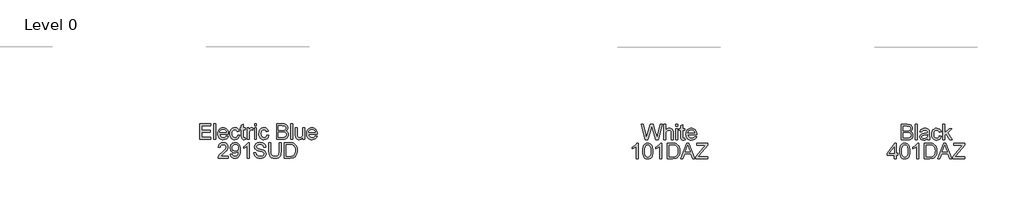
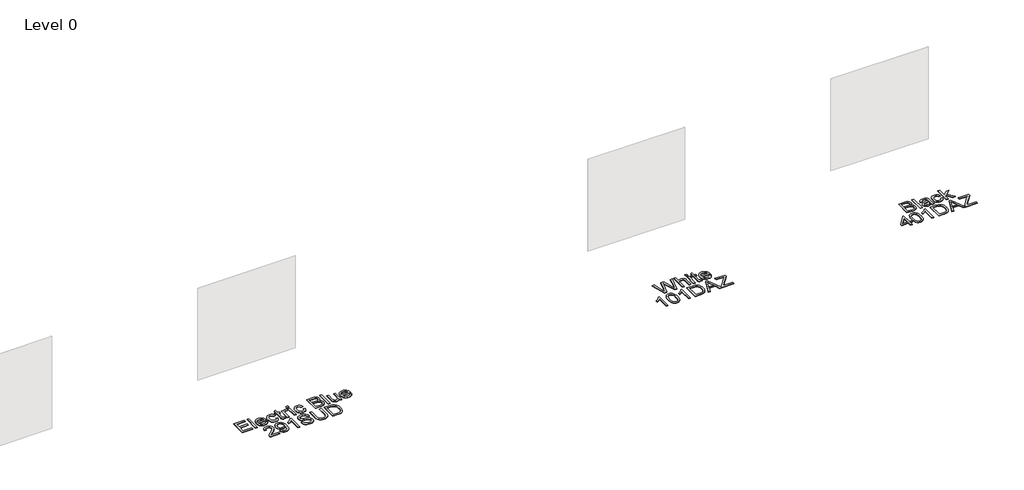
# One storey, part 18 of 37: 3 proxies.
"""IFC4 building model written with IfcOpenShell, lengths in millimetres."""

from ifc_helpers import new_model, si_unit, origin, origin_with_axes, place, context, project, spatial, polyline, outline, extrude, element, save

model = new_model("IFC4")

# Units and contexts
model_context = context("Model", 3, world=origin())
ifc_project = project(units=[si_unit("LENGTHUNIT", "METRE", prefix="MILLI")], contexts=[model_context])

# Site, building, storey
site = spatial("IfcSite", under=ifc_project)
building = spatial("IfcBuilding", under=site)
storey = spatial("IfcBuildingStorey", under=building, Name="Level 0", Elevation=0.0)

# Proxies
placement = place(None, origin())
element("IfcBuildingElementProxy", 1, Name="300mm Arial", ObjectType="300mm Arial", at=placement, inside=storey, context=model_context, shape_type="SweptSolid", body=[
    extrude(outline(polyline([(9416.8540097, -36932.860494), (9416.8540097, -36631.4915635), (9633.4629285, -36631.4915635), (9633.4629285, -36669.1626798), (9454.525126, -36669.1626798), (9454.525126, -36758.6315811), (9624.0451494, -36758.6315811), (9624.0451494, -36796.3026974), (9454.525126, -36796.3026974), (9454.525126, -36895.1893777), (9638.171818, -36895.1893777), (9638.171818, -36932.860494), (9416.8540097, -36932.860494)])), origin_with_axes(), (0.0, 0.0, 1.0), 10.0),
    extrude(outline(polyline([(9689.969603, -36932.860494), (9689.969603, -36631.4915635), (9727.6407193, -36631.4915635), (9727.6407193, -36932.860494), (9689.969603, -36932.860494)])), origin_with_axes(), (0.0, 0.0, 1.0), 10.0),
    extrude(outline(polyline([(9939.0992901, -36866.9360404), (9976.0346424, -36871.64493), (9962.7265112, -36899.4752029), (9941.4905231, -36920.2789297), (9912.8049245, -36933.2467701), (9877.1479621, -36937.5693835), (9853.7736598, -36935.7046817), (9832.9469404, -36930.1105761), (9814.6678037, -36920.7870668), (9798.9362499, -36907.7341537), (9786.2857078, -36891.3151204), (9777.2496063, -36871.8932503), (9771.8279454, -36849.4685435), (9770.0207251, -36824.0409998), (9771.8463395, -36797.7512327), (9777.3231827, -36774.5792656), (9786.4512547, -36754.5250983), (9799.2305555, -36737.5887309), (9814.9207226, -36724.133447), (9832.7813935, -36714.5225298), (9852.8125681, -36708.7559796), (9875.0142465, -36706.8337961), (9896.5008543, -36708.751381), (9915.9319214, -36714.5041357), (9933.3074479, -36724.0920602), (9948.6274338, -36737.5151545), (9961.1331223, -36754.4147337), (9970.065757, -36774.4321128), (9975.4253379, -36797.5672917), (9977.2118648, -36823.8202706), (9976.9911356, -36833.9738137), (9807.6918414, -36833.9738137), (9814.2125498, -36862.1719686), (9829.3600909, -36882.902119), (9851.2214785, -36895.6492302), (9877.8837261, -36899.8982672), (9897.9332948, -36897.9300985), (9914.8190784, -36892.0255925), (9928.5410768, -36881.8168672), (9939.0992901, -36866.9360404)]), holes=[polyline([(9807.6918414, -36796.3026974), (9939.5407485, -36796.3026974), (9934.4455829, -36776.4002814), (9924.4575867, -36762.1632482), (9902.4950316, -36748.9194964), (9874.8670937, -36744.5049125), (9849.474039, -36748.0273826), (9828.4771741, -36758.5947929), (9813.881456, -36775.0667092), (9807.6918414, -36796.3026974)])]), origin_with_axes(), (0.0, 0.0, 1.0), 10.0),
    extrude(outline(polyline([(10156.1496672, -36852.8093718), (10193.8207836, -36857.5182614), (10183.3177526, -36891.0231141), (10163.5808836, -36916.3425924), (10136.4679805, -36932.2626857), (10103.8368475, -36937.5693835), (10082.7089247, -36935.7184772), (10063.7653012, -36930.1657584), (10047.0059771, -36920.9112269), (10032.4309523, -36907.9548829), (10020.6334365, -36891.5404481), (10012.2066396, -36871.9116444), (10007.1505614, -36849.0684718), (10005.465202, -36823.0109302), (10008.3438786, -36789.4876834), (10016.9799085, -36760.4342028), (10031.5112473, -36736.9725286), (10052.0758508, -36720.2247008), (10076.6779592, -36710.1815223), (10103.3218127, -36706.8337961), (10135.1528024, -36711.4323211), (10160.6010394, -36725.2278959), (10178.8571834, -36747.4847566), (10189.111894, -36777.4671392), (10151.4407777, -36782.1760288), (10144.6073696, -36765.7409006), (10133.9663829, -36753.9594797), (10120.1064288, -36746.8685543), (10103.6161183, -36744.5049125), (10079.2715273, -36749.1586197), (10059.9485255, -36763.1197414), (10047.3393701, -36787.1424357), (10043.1363183, -36821.9808606), (10047.2473996, -36857.2883351), (10059.5806435, -36881.3938029), (10078.5541574, -36895.2721511), (10102.5860487, -36899.8982672), (10122.0929915, -36897.0103936), (10138.0866613, -36888.3467726), (10149.7209294, -36873.6866751), (10156.1496672, -36852.8093718)])), origin_with_axes(), (0.0, 0.0, 1.0), 10.0),
    extrude(outline(polyline([(10306.8341325, -36901.4433716), (10311.543022, -36933.96414), (10283.3632612, -36937.5693835), (10265.2818611, -36936.005885), (10251.798986, -36931.3153896), (10242.2708423, -36924.0865084), (10236.0536366, -36914.9078526), (10232.632334, -36899.1441091), (10231.4918999, -36872.1599648), (10231.4918999, -36749.213802), (10203.2385626, -36749.213802), (10203.2385626, -36711.5426857), (10231.4918999, -36711.5426857), (10231.4918999, -36657.758338), (10269.1630162, -36635.6118419), (10269.1630162, -36711.5426857), (10306.8341325, -36711.5426857), (10306.8341325, -36749.213802), (10269.1630162, -36749.213802), (10269.1630162, -36871.0563188), (10271.1495789, -36890.4804881), (10277.5875139, -36897.3598814), (10290.4265955, -36899.8982672), (10306.8341325, -36901.4433716)])), origin_with_axes(), (0.0, 0.0, 1.0), 10.0),
    extrude(outline(polyline([(10344.5052488, -36932.860494), (10344.5052488, -36711.5426857), (10377.4674755, -36711.5426857), (10377.4674755, -36744.2841833), (10389.6443696, -36725.3014723), (10400.8647704, -36714.1178596), (10412.1219595, -36708.654812), (10424.4092181, -36706.8337961), (10443.1711999, -36709.7400639), (10462.2274872, -36718.4588672), (10449.645923, -36752.2304343), (10436.4021712, -36746.4362929), (10423.1584193, -36744.5049125), (10411.9104273, -36746.3627165), (10401.8580518, -36751.9361288), (10393.7370568, -36760.8020848), (10388.2832062, -36772.5375205), (10383.7030754, -36793.5803706), (10382.1763651, -36816.5362071), (10382.1763651, -36932.860494), (10344.5052488, -36932.860494)])), origin_with_axes(), (0.0, 0.0, 1.0), 10.0),
    extrude(outline(polyline([(10485.7719349, -36669.1626798), (10485.7719349, -36631.4915635), (10523.4430512, -36631.4915635), (10523.4430512, -36669.1626798), (10485.7719349, -36669.1626798)])), origin_with_axes(), (0.0, 0.0, 1.0), 10.0),
    extrude(outline(polyline([(10485.7719349, -36932.860494), (10485.7719349, -36711.5426857), (10523.4430512, -36711.5426857), (10523.4430512, -36932.860494), (10485.7719349, -36932.860494)])), origin_with_axes(), (0.0, 0.0, 1.0), 10.0),
    extrude(outline(polyline([(10721.2164118, -36852.8093718), (10758.8875281, -36857.5182614), (10748.3844972, -36891.0231141), (10728.6476281, -36916.3425924), (10701.5347251, -36932.2626857), (10668.9035921, -36937.5693835), (10647.7756693, -36935.7184772), (10628.8320458, -36930.1657584), (10612.0727217, -36920.9112269), (10597.4976969, -36907.9548829), (10585.7001811, -36891.5404481), (10577.2733842, -36871.9116444), (10572.217306, -36849.0684718), (10570.5319466, -36823.0109302), (10573.4106232, -36789.4876834), (10582.0466531, -36760.4342028), (10596.5779919, -36736.9725286), (10617.1425954, -36720.2247008), (10641.7447038, -36710.1815223), (10668.3885573, -36706.8337961), (10700.219547, -36711.4323211), (10725.667784, -36725.2278959), (10743.923928, -36747.4847566), (10754.1786386, -36777.4671392), (10716.5075223, -36782.1760288), (10709.6741142, -36765.7409006), (10699.0331275, -36753.9594797), (10685.1731734, -36746.8685543), (10668.6828629, -36744.5049125), (10644.3382719, -36749.1586197), (10625.0152701, -36763.1197414), (10612.4061147, -36787.1424357), (10608.2030629, -36821.9808606), (10612.3141442, -36857.2883351), (10624.6473881, -36881.3938029), (10643.620902, -36895.2721511), (10667.6527933, -36899.8982672), (10687.1597361, -36897.0103936), (10703.1534059, -36888.3467726), (10714.787674, -36873.6866751), (10721.2164118, -36852.8093718)])), origin_with_axes(), (0.0, 0.0, 1.0), 10.0),
    extrude(outline(polyline([(10914.2808829, -36932.860494), (10914.2808829, -36631.4915635), (11029.2807946, -36631.4915635), (11060.9094491, -36633.7080526), (11085.6035281, -36640.3575196), (11104.5310567, -36651.6055116), (11118.8600604, -36667.6175755), (11127.8823664, -36686.4531336), (11130.8898017, -36706.1716086), (11128.360613, -36724.317388), (11120.7730468, -36741.3779155), (11108.0719209, -36756.3047274), (11090.202053, -36768.0493601), (11111.5484058, -36779.1961846), (11127.3213463, -36796.1555446), (11137.0610221, -36817.8054), (11140.3075807, -36843.0237108), (11138.0910917, -36864.0389697), (11131.4416247, -36883.5275184), (11121.5180078, -36900.1006023), (11109.4790695, -36912.3694668), (11094.7361986, -36921.253817), (11076.7007838, -36927.6733578), (11028.3978778, -36932.860494), (10914.2808829, -36932.860494)]), holes=[polyline([(10951.9519992, -36753.9226915), (11020.7459323, -36753.9226915), (11060.9186462, -36750.68533), (11074.9809355, -36745.1027207), (11085.0884933, -36736.7426024), (11091.1861373, -36725.7337336), (11093.2186854, -36712.2048733), (11091.3240931, -36699.071486), (11085.6403163, -36687.630356), (11076.4248723, -36678.7000206), (11063.9352785, -36673.0990172), (11015.522008, -36669.1626798), (10951.9519992, -36669.1626798), (10951.9519992, -36753.9226915)]), polyline([(10951.9519992, -36895.1893777), (11029.2072182, -36895.1893777), (11057.1662498, -36893.7178497), (11080.8210621, -36885.5140812), (11096.4928351, -36868.7754504), (11101.1005571, -36856.9480443), (11102.6364644, -36843.3915928), (11100.8338427, -36827.6462434), (11095.4259773, -36814.1081859), (11085.9806071, -36803.5223815), (11072.0654706, -36796.6337912), (11052.3561927, -36792.8538037), (11025.5283982, -36791.5938078), (10951.9519992, -36791.5938078), (10951.9519992, -36895.1893777)])]), origin_with_axes(), (0.0, 0.0, 1.0), 10.0),
    extrude(outline(polyline([(11187.3964761, -36932.860494), (11187.3964761, -36631.4915635), (11225.0675924, -36631.4915635), (11225.0675924, -36932.860494), (11187.3964761, -36932.860494)])), origin_with_axes(), (0.0, 0.0, 1.0), 10.0),
    extrude(outline(polyline([(11422.840953, -36932.860494), (11422.840953, -36894.8214957), (11409.2109251, -36913.5236966), (11393.336817, -36926.8824116), (11375.2186288, -36934.8976405), (11354.8563603, -36937.5693835), (11336.5082458, -36935.6931853), (11319.4293242, -36930.0645908), (11305.1003205, -36921.6033049), (11295.0019597, -36911.2290327), (11283.7815589, -36883.4907302), (11281.5742669, -36848.4683643), (11281.5742669, -36711.5426857), (11319.2453832, -36711.5426857), (11319.2453832, -36830.7364521), (11321.5262516, -36869.1433324), (11327.0168903, -36881.9548229), (11336.4254724, -36891.6944987), (11349.1265983, -36897.8473251), (11364.4948686, -36899.8982672), (11380.7460557, -36897.8013398), (11395.9487792, -36891.5105577), (11408.4843582, -36881.605335), (11416.7341119, -36868.6650858), (11421.3142428, -36850.9423707), (11422.840953, -36826.6897502), (11422.840953, -36711.5426857), (11460.5120693, -36711.5426857), (11460.5120693, -36932.860494), (11422.840953, -36932.860494)])), origin_with_axes(), (0.0, 0.0, 1.0), 10.0),
    extrude(outline(polyline([(11667.2617506, -36866.9360404), (11704.197103, -36871.64493), (11690.8889718, -36899.4752029), (11669.6529836, -36920.2789297), (11640.967385, -36933.2467701), (11605.3104226, -36937.5693835), (11581.9361204, -36935.7046817), (11561.1094009, -36930.1105761), (11542.8302643, -36920.7870668), (11527.0987105, -36907.7341537), (11514.4481684, -36891.3151204), (11505.4120669, -36871.8932503), (11499.990406, -36849.4685435), (11498.1831857, -36824.0409998), (11500.0088001, -36797.7512327), (11505.4856433, -36774.5792656), (11514.6137153, -36754.5250983), (11527.3930161, -36737.5887309), (11543.0831832, -36724.133447), (11560.943854, -36714.5225298), (11580.9750287, -36708.7559796), (11603.1767071, -36706.8337961), (11624.6633149, -36708.751381), (11644.094382, -36714.5041357), (11661.4699085, -36724.0920602), (11676.7898943, -36737.5151545), (11689.2955829, -36754.4147337), (11698.2282176, -36774.4321128), (11703.5877984, -36797.5672917), (11705.3743253, -36823.8202706), (11705.1535961, -36833.9738137), (11535.854302, -36833.9738137), (11542.3750103, -36862.1719686), (11557.5225515, -36882.902119), (11579.383939, -36895.6492302), (11606.0461866, -36899.8982672), (11626.0957554, -36897.9300985), (11642.981539, -36892.0255925), (11656.7035374, -36881.8168672), (11667.2617506, -36866.9360404)]), holes=[polyline([(11535.854302, -36796.3026974), (11667.703209, -36796.3026974), (11662.6080434, -36776.4002814), (11652.6200472, -36762.1632482), (11630.6574921, -36748.9194964), (11603.0295543, -36744.5049125), (11577.6364996, -36748.0273826), (11556.6396347, -36758.5947929), (11542.0439165, -36775.0667092), (11535.854302, -36796.3026974)])]), origin_with_axes(), (0.0, 0.0, 1.0), 10.0),
    extrude(outline(polyline([(9974.85742, -37261.1138312), (9974.85742, -37298.7849475), (9777.0840594, -37298.7849475), (9781.1307614, -37272.8124787), (9790.4197817, -37252.5145896), (9804.0130215, -37232.8237058), (9823.6763141, -37212.213117), (9851.1754932, -37189.156113), (9891.8264537, -37153.0484951), (9916.21703, -37126.3954446), (9928.4123181, -37104.7639833), (9932.4774142, -37083.7211331), (9928.6422444, -37064.8579838), (9917.136735, -37049.1770138), (9899.4508081, -37038.6096035), (9877.0743857, -37035.0871334), (9853.5759233, -37038.52683), (9835.3197793, -37048.84592), (9823.5383584, -37065.2350629), (9819.4640653, -37086.8849183), (9781.792949, -37082.1760288), (9790.9256195, -37045.7373171), (9799.4719781, -37031.2013798), (9810.6716856, -37019.1210548), (9824.2672246, -37009.6251008), (9840.0010776, -37002.8422765), (9877.8837261, -36997.4160171), (9898.0735498, -36998.9243332), (9916.042286, -37003.4492818), (9931.7899347, -37010.9908627), (9945.3164958, -37021.549076), (9956.180511, -37034.3421723), (9963.9405218, -37048.5884026), (9968.5965283, -37064.2877667), (9970.1485305, -37081.4402648), (9968.4746674, -37099.4572855), (9963.4530782, -37117.1616065), (9954.5411368, -37135.1694302), (9941.1962175, -37154.0969588), (9919.9234411, -37176.6941104), (9887.2279288, -37205.7108027), (9843.8914297, -37241.9471793), (9826.8952816, -37261.1138312), (9974.85742, -37261.1138312)])), origin_with_axes(), (0.0, 0.0, 1.0), 10.0),
    extrude(outline(polyline([(10017.2374259, -37223.4427149), (10054.9085422, -37218.7338254), (10061.3464771, -37240.1169663), (10071.831114, -37254.6758963), (10086.1049354, -37263.0360146), (10103.9104239, -37265.8227207), (10119.8856996, -37264.029296), (10134.4078413, -37258.6490218), (10146.4743708, -37250.2705094), (10155.0828095, -37239.4823699), (10167.4068563, -37206.7408723), (10172.8515098, -37163.0364913), (10172.6307806, -37155.6788514), (10159.5801669, -37171.6081418), (10142.5012452, -37184.2264942), (10122.6264204, -37192.4486568), (10101.1880972, -37195.1893777), (10083.2929374, -37193.5155146), (10066.8371159, -37188.4939254), (10051.8206327, -37180.12461), (10038.2434878, -37168.4075684), (10026.9931965, -37153.9544045), (10018.9572742, -37137.3767221), (10014.1357208, -37118.6745212), (10012.5285363, -37097.8478018), (10014.2138957, -37076.326705), (10019.2699739, -37057.0129003), (10027.6967708, -37039.9063875), (10039.4942866, -37025.0071667), (10053.8301881, -37012.9360387), (10069.8721423, -37004.3138045), (10087.6201493, -36999.1404639), (10107.0742091, -36997.4160171), (10135.1711965, -37001.3523544), (10160.7481922, -37013.1613665), (10182.1405302, -37032.254442), (10197.6835445, -37058.0429699), (10207.1473088, -37093.6907352), (10210.3018969, -37142.3615232), (10207.1565059, -37193.96617), (10197.7203327, -37233.8537754), (10182.0761509, -37263.8269609), (10160.3067338, -37285.6883485), (10133.3501806, -37299.0424649), (10102.1445904, -37303.4938371), (10069.9365217, -37298.2423216), (10044.2399643, -37282.4877751), (10026.2689289, -37257.2234791), (10017.2374259, -37223.4427149)]), holes=[polyline([(10172.6307806, -37096.964885), (10168.5656846, -37071.4338745), (10156.3703964, -37051.788976), (10137.4428678, -37039.262594), (10113.1810502, -37035.0871334), (10088.0179217, -37039.5844908), (10067.8579884, -37053.0765629), (10054.6142366, -37073.7239399), (10050.1996526, -37099.6872117), (10054.3751133, -37122.964945), (10066.9014952, -37141.4418182), (10086.5647879, -37153.4991506), (10112.1509806, -37157.5182614), (10136.2196602, -37153.4991506), (10155.5978443, -37141.4418182), (10168.3725465, -37122.2843633), (10172.6307806, -37096.964885)])]), origin_with_axes(), (0.0, 0.0, 1.0), 10.0),
    extrude(outline(polyline([(10384.5308099, -37298.7849475), (10346.8596935, -37298.7849475), (10346.8596935, -37063.9290818), (10311.17514, -37089.3497277), (10271.5174609, -37108.3692268), (10271.5174609, -37072.7582497), (10301.1043704, -37056.6634124), (10326.7365484, -37037.5151545), (10346.942467, -37017.1528861), (10360.2505982, -36997.4160171), (10384.5308099, -36997.4160171), (10384.5308099, -37298.7849475)])), origin_with_axes(), (0.0, 0.0, 1.0), 10.0),
    extrude(outline(polyline([(10473.9997111, -37195.1893777), (10511.6708274, -37195.1893777), (10515.9934408, -37216.0942721), (10523.8109332, -37232.8972822), (10536.0062214, -37246.2330045), (10553.462222, -37256.7360355), (10574.7993778, -37263.5510494), (10598.638131, -37265.8227207), (10619.6257989, -37264.1028724), (10638.0015045, -37258.9433274), (10652.8915283, -37250.7763471), (10663.4221504, -37240.0341929), (10669.6853414, -37227.700949), (10671.7730717, -37214.7606998), (10670.2095732, -37202.1515444), (10665.5190778, -37191.2530403), (10655.9909341, -37181.9548229), (10639.9144909, -37174.1465276), (10585.0632854, -37159.7623415), (10549.0568351, -37150.2433949), (10526.0182252, -37141.1843008), (10507.2654405, -37128.510766), (10493.9757034, -37113.1516928), (10486.0570435, -37095.4381747), (10483.4174902, -37075.7013056), (10486.6824429, -37053.637583), (10496.477301, -37033.0637824), (10512.5445471, -37015.6261758), (10534.6266639, -37002.9710352), (10561.1325616, -36995.2731044), (10590.4711508, -36992.7071275), (10622.2561551, -36995.3926661), (10650.068034, -37003.4492818), (10672.9135059, -37016.7114277), (10689.7992895, -37035.013557), (10700.4862614, -37057.2152354), (10704.7352985, -37082.1760288), (10667.0641821, -37082.1760288), (10660.1480006, -37059.6984389), (10645.7270264, -37043.4748429), (10623.1942542, -37033.6523936), (10591.9426787, -37030.3782438), (10559.9553393, -37033.6156054), (10538.0111782, -37043.3276901), (10525.3192494, -37057.6199056), (10521.0886065, -37074.5976597), (10524.0868447, -37089.0738162), (10533.0815595, -37100.7172813), (10554.3451388, -37111.1283418), (10594.5914291, -37121.7601314), (10636.1253064, -37131.8584922), (10661.2516466, -37140.669266), (10682.7267581, -37154.3360821), (10697.7087523, -37171.2034716), (10706.5103291, -37191.0874934), (10709.444188, -37213.8042066), (10706.0688707, -37237.0267576), (10695.9429188, -37258.869751), (10679.4801995, -37277.668521), (10657.0945801, -37291.7584014), (10630.1748151, -37300.5599781), (10600.109659, -37303.4938371), (10563.2018979, -37300.3300519), (10532.8240421, -37290.8386964), (10508.6266039, -37274.9829824), (10490.2600953, -37252.7261217), (10478.4694773, -37225.6132187), (10473.9997111, -37195.1893777)])), origin_with_axes(), (0.0, 0.0, 1.0), 10.0),
    extrude(outline(polyline([(10963.7242231, -36997.4160171), (11001.3953394, -36997.4160171), (11001.3953394, -37171.277048), (10998.8385595, -37211.9923878), (10991.1682199, -37243.3451308), (10976.8392162, -37267.533372), (10954.306444, -37286.7552063), (10923.514721, -37299.3091794), (10884.4088649, -37303.4938371), (10846.1583345, -37299.8518053), (10815.5781436, -37288.92571), (10792.6590953, -37271.0926303), (10777.3919925, -37246.7296452), (10768.811145, -37214.052527), (10765.9508625, -37171.277048), (10765.9508625, -36997.4160171), (10803.6219788, -36997.4160171), (10803.6219788, -37169.9526728), (10805.4797828, -37203.8070134), (10811.0531951, -37227.3790523), (10821.1515558, -37243.7038158), (10836.5842055, -37255.8163305), (10856.7073507, -37263.3211232), (10880.8771977, -37265.8227207), (10919.1921075, -37260.8747079), (10933.5349068, -37254.6896919), (10944.6679357, -37246.0306694), (10953.0050614, -37233.8537754), (10958.9601512, -37217.1151446), (10963.7242231, -37169.9526728), (10963.7242231, -36997.4160171)])), origin_with_axes(), (0.0, 0.0, 1.0), 10.0),
    extrude(outline(polyline([(11067.3197929, -37298.7849475), (11067.3197929, -36997.4160171), (11171.2832447, -36997.4160171), (11225.0675924, -37001.7570246), (11249.0902867, -37010.12634), (11269.3605847, -37023.3149095), (11290.2010997, -37046.270746), (11305.0451382, -37074.8183889), (11313.9294884, -37108.406015), (11316.8909384, -37146.4818015), (11314.8859816, -37178.8278259), (11308.8711109, -37207.2926953), (11299.7108493, -37231.5269217), (11288.2697192, -37251.1810173), (11275.0995438, -37266.6964405), (11260.752146, -37278.5146496), (11244.2802296, -37287.2794381), (11224.7364986, -37293.6345996), (11176.2864399, -37298.7849475), (11067.3197929, -37298.7849475)]), holes=[polyline([(11104.9909092, -37261.1138312), (11171.6511267, -37261.1138312), (11199.2238823, -37259.7526678), (11220.1379737, -37255.6691777), (11235.9201113, -37249.1024841), (11248.0970053, -37240.2917103), (11261.1844073, -37223.9853408), (11271.0160536, -37202.8781114), (11277.16888, -37176.8780514), (11279.2198221, -37145.8931903), (11275.2007113, -37104.8375597), (11263.1433789, -37074.5240833), (11245.3286933, -37053.7019623), (11224.0375228, -37041.1203981), (11202.3692733, -37036.5954496), (11170.6210571, -37035.0871334), (11104.9909092, -37035.0871334), (11104.9909092, -37261.1138312)])]), origin_with_axes(), (0.0, 0.0, 1.0), 10.0),
])
element("IfcBuildingElementProxy", 2, Name="300mm Arial", ObjectType="300mm Arial", at=placement, inside=storey, context=model_context, shape_type="SweptSolid", body=[
    extrude(outline(polyline([(18090.0044845, -36943.860494), (18007.8196468, -36642.4915635), (18046.6679855, -36642.4915635), (18094.3454921, -36840.5592297), (18109.0607719, -36901.7012173), (18124.8061213, -36847.622564), (18184.5501573, -36642.4915635), (18240.5417969, -36642.4915635), (18283.9518724, -36791.189466), (18302.5483072, -36846.3717653), (18316.2519115, -36901.7012173), (18330.525733, -36842.3250633), (18378.6446979, -36642.4915635), (18417.4930366, -36642.4915635), (18335.2346225, -36943.860494), (18294.9883322, -36943.860494), (18222.7363084, -36711.359073), (18212.6563417, -36678.9118811), (18201.3255763, -36717.9809489), (18135.4746991, -36943.860494), (18090.0044845, -36943.860494)])), origin_with_axes(), (0.0, 0.0, 1.0), 10.0),
    extrude(outline(polyline([(18450.4552634, -36943.860494), (18450.4552634, -36642.4915635), (18488.1263797, -36642.4915635), (18488.1263797, -36753.2976205), (18501.9633412, -36737.7821973), (18517.501757, -36726.6997522), (18534.741627, -36720.0502852), (18553.6829512, -36717.8337961), (18576.4364526, -36720.2526203), (18595.9893807, -36727.5090926), (18611.3852422, -36739.0329961), (18621.6675439, -36754.2541137), (18627.4616854, -36775.1682051), (18629.3930658, -36803.7710302), (18629.3930658, -36943.860494), (18591.7219495, -36943.860494), (18591.7219495, -36807.6705794), (18588.7237113, -36784.0893435), (18579.7289965, -36767.9393239), (18565.2344459, -36758.6135153), (18545.7367001, -36755.5049125), (18529.8166068, -36757.6018398), (18514.8714007, -36763.8926219), (18502.4921716, -36773.7702535), (18494.270009, -36786.6277292), (18489.662287, -36803.7158479), (18488.1263797, -36826.2854083), (18488.1263797, -36943.860494), (18450.4552634, -36943.860494)])), origin_with_axes(), (0.0, 0.0, 1.0), 10.0),
    extrude(outline(polyline([(18681.1908508, -36680.1626798), (18681.1908508, -36642.4915635), (18718.8619671, -36642.4915635), (18718.8619671, -36680.1626798), (18681.1908508, -36680.1626798)])), origin_with_axes(), (0.0, 0.0, 1.0), 10.0),
    extrude(outline(polyline([(18681.1908508, -36943.860494), (18681.1908508, -36722.5426857), (18718.8619671, -36722.5426857), (18718.8619671, -36943.860494), (18681.1908508, -36943.860494)])), origin_with_axes(), (0.0, 0.0, 1.0), 10.0),
    extrude(outline(polyline([(18855.4197637, -36912.4433716), (18860.1286532, -36944.96414), (18831.9488924, -36948.5693835), (18813.8674923, -36947.005885), (18800.3846172, -36942.3153896), (18790.8564735, -36935.0865084), (18784.6392678, -36925.9078526), (18781.2179653, -36910.1441091), (18780.0775311, -36883.1599648), (18780.0775311, -36760.213802), (18751.8241938, -36760.213802), (18751.8241938, -36722.5426857), (18780.0775311, -36722.5426857), (18780.0775311, -36668.758338), (18817.7486474, -36646.6118419), (18817.7486474, -36722.5426857), (18855.4197637, -36722.5426857), (18855.4197637, -36760.213802), (18817.7486474, -36760.213802), (18817.7486474, -36882.0563188), (18819.7352101, -36901.4804881), (18826.1731451, -36908.3598814), (18839.0122267, -36910.8982672), (18855.4197637, -36912.4433716)])), origin_with_axes(), (0.0, 0.0, 1.0), 10.0),
    extrude(outline(polyline([(19048.0427764, -36877.9360404), (19084.9781287, -36882.64493), (19071.6699975, -36910.4752029), (19050.4340093, -36931.2789297), (19021.7484107, -36944.2467701), (18986.0914484, -36948.5693835), (18962.7171461, -36946.7046817), (18941.8904266, -36941.1105761), (18923.61129, -36931.7870668), (18907.8797362, -36918.7341537), (18895.2291941, -36902.3151204), (18886.1930926, -36882.8932503), (18880.7714317, -36860.4685435), (18878.9642114, -36835.0409998), (18880.7898258, -36808.7512327), (18886.266669, -36785.5792656), (18895.394741, -36765.5250983), (18908.1740418, -36748.5887309), (18923.8642089, -36735.133447), (18941.7248797, -36725.5225298), (18961.7560544, -36719.7559796), (18983.9577328, -36717.8337961), (19005.4443406, -36719.751381), (19024.8754077, -36725.5041357), (19042.2509342, -36735.0920602), (19057.57092, -36748.5151545), (19070.0766086, -36765.4147337), (19079.0092433, -36785.4321128), (19084.3688241, -36808.5672917), (19086.1553511, -36834.8202706), (19085.9346219, -36844.9738137), (18916.6353277, -36844.9738137), (18923.156036, -36873.1719686), (18938.3035772, -36893.902119), (18960.1649648, -36906.6492302), (18986.8272124, -36910.8982672), (19006.8767811, -36908.9300985), (19023.7625647, -36903.0255925), (19037.4845631, -36892.8168672), (19048.0427764, -36877.9360404)]), holes=[polyline([(18916.6353277, -36807.3026974), (19048.4842347, -36807.3026974), (19043.3890691, -36787.4002814), (19033.4010729, -36773.1632482), (19011.4385178, -36759.9194964), (18983.81058, -36755.5049125), (18958.4175253, -36759.0273826), (18937.4206604, -36769.5947929), (18922.8249422, -36786.0667092), (18916.6353277, -36807.3026974)])]), origin_with_axes(), (0.0, 0.0, 1.0), 10.0),
    extrude(outline(polyline([(17946.6040828, -37309.7849475), (17908.9329665, -37309.7849475), (17908.9329665, -37074.9290818), (17873.248413, -37100.3497277), (17833.5907339, -37119.3692268), (17833.5907339, -37083.7582497), (17863.1776433, -37067.6634124), (17888.8098214, -37048.5151545), (17909.0157399, -37028.1528861), (17922.3238711, -37008.4160171), (17946.6040828, -37008.4160171), (17946.6040828, -37309.7849475)])), origin_with_axes(), (0.0, 0.0, 1.0), 10.0),
    extrude(outline(polyline([(18036.072984, -37161.5285035), (18038.841296, -37113.2899768), (18047.1462321, -37074.8187172), (18060.9050187, -37045.5261133), (18080.0348824, -37024.8235541), (18104.6737791, -37012.5179013), (18134.9596643, -37008.4160171), (18158.1730182, -37010.8440382), (18178.9583509, -37018.1281017), (18196.3407752, -37029.983099), (18209.3454038, -37046.1239216), (18219.167853, -37066.4126136), (18227.0037395, -37090.7112194), (18232.1356934, -37121.5673217), (18233.8463446, -37161.5285035), (18231.1056238, -37209.4911186), (18222.8834612, -37247.8704077), (18209.207448, -37277.1906027), (18190.1051754, -37297.9759355), (18165.4110965, -37310.3643617), (18134.9596643, -37314.4938371), (18114.2111198, -37312.7004123), (18095.81702, -37307.3201381), (18079.777365, -37298.3530145), (18066.0921548, -37285.7990414), (18052.9587676, -37263.1053209), (18043.5777767, -37234.828991), (18037.9491822, -37200.9700519), (18036.072984, -37161.5285035)]), holes=[polyline([(18073.7441003, -37161.4549271), (18078.1586843, -37220.7115194), (18083.6769142, -37240.9795181), (18091.4024361, -37255.0073184), (18111.120911, -37271.3688702), (18134.9596643, -37276.8227207), (18158.7984176, -37271.3504761), (18178.5168926, -37254.933742), (18186.2424145, -37240.8829491), (18191.7606444, -37220.6195489), (18196.1752283, -37161.4549271), (18191.9077972, -37103.5319069), (18186.5735082, -37083.3305869), (18179.1055037, -37068.9693935), (18159.423817, -37051.8076984), (18134.5182059, -37046.0871334), (18110.93697, -37051.1271167), (18091.9910473, -37066.2470667), (18084.008008, -37081.8820515), (18078.3058371, -37102.9616898), (18073.7441003, -37161.4549271)])]), origin_with_axes(), (0.0, 0.0, 1.0), 10.0),
    extrude(outline(polyline([(18408.0752575, -37309.7849475), (18370.4041412, -37309.7849475), (18370.4041412, -37074.9290818), (18334.7195877, -37100.3497277), (18295.0619086, -37119.3692268), (18295.0619086, -37083.7582497), (18324.6488181, -37067.6634124), (18350.2809961, -37048.5151545), (18370.4869147, -37028.1528861), (18383.7950459, -37008.4160171), (18408.0752575, -37008.4160171), (18408.0752575, -37309.7849475)])), origin_with_axes(), (0.0, 0.0, 1.0), 10.0),
    extrude(outline(polyline([(18511.6708274, -37309.7849475), (18511.6708274, -37008.4160171), (18615.6342792, -37008.4160171), (18669.4186269, -37012.7570246), (18693.4413212, -37021.12634), (18713.7116191, -37034.3149095), (18734.5521342, -37057.270746), (18749.3961727, -37085.8183889), (18758.2805229, -37119.406015), (18761.2419729, -37157.4818015), (18759.237016, -37189.8278259), (18753.2221454, -37218.2926953), (18744.0618837, -37242.5269217), (18732.6207537, -37262.1810173), (18719.4505783, -37277.6964405), (18705.1031805, -37289.5146496), (18688.6312641, -37298.2794381), (18669.0875331, -37304.6345996), (18620.6374744, -37309.7849475), (18511.6708274, -37309.7849475)]), holes=[polyline([(18549.3419437, -37272.1138312), (18616.0021612, -37272.1138312), (18643.5749168, -37270.7526678), (18664.4890082, -37266.6691777), (18680.2711458, -37260.1024841), (18692.4480398, -37251.2917103), (18705.5354418, -37234.9853408), (18715.3670881, -37213.8781114), (18721.5199145, -37187.8780514), (18723.5708566, -37156.8931903), (18719.5517458, -37115.8375597), (18707.4944134, -37085.5240833), (18689.6797278, -37064.7019623), (18668.3885573, -37052.1203981), (18646.7203078, -37047.5954496), (18614.9720916, -37046.0871334), (18549.3419437, -37046.0871334), (18549.3419437, -37272.1138312)])]), origin_with_axes(), (0.0, 0.0, 1.0), 10.0),
    extrude(outline(polyline([(18777.9438155, -37309.7849475), (18898.2412279, -37008.4160171), (18930.3205379, -37008.4160171), (19050.6179503, -37309.7849475), (19010.8131184, -37309.7849475), (18976.3057873, -37215.6071568), (18852.1824021, -37215.6071568), (18817.7486474, -37309.7849475), (18777.9438155, -37309.7849475)]), holes=[polyline([(18866.0147651, -37177.9360404), (18962.5470007, -37177.9360404), (18935.3973094, -37103.8446066), (18914.2808829, -37046.0871334), (18895.5189012, -37097.3698835), (18866.0147651, -37177.9360404)])]), origin_with_axes(), (0.0, 0.0, 1.0), 10.0),
    extrude(outline(polyline([(19067.3197929, -37309.7849475), (19067.3197929, -37270.7158796), (19221.4623489, -37081.9924161), (19250.7457557, -37046.0871334), (19086.1553511, -37046.0871334), (19086.1553511, -37008.4160171), (19298.0553803, -37008.4160171), (19298.0553803, -37046.0871334), (19129.3446973, -37252.6160855), (19113.4521951, -37272.1138312), (19302.7642698, -37272.1138312), (19302.7642698, -37309.7849475), (19067.3197929, -37309.7849475)])), origin_with_axes(), (0.0, 0.0, 1.0), 10.0),
])
element("IfcBuildingElementProxy", 3, Name="300mm Arial", ObjectType="300mm Arial", at=placement, inside=storey, context=model_context, shape_type="SweptSolid", body=[
    extrude(outline(polyline([(23069.0352108, -36943.860494), (23069.0352108, -36642.4915635), (23184.0351225, -36642.4915635), (23215.663777, -36644.7080526), (23240.3578559, -36651.3575196), (23259.2853846, -36662.6055116), (23273.6143883, -36678.6175755), (23282.6366942, -36697.4531336), (23285.6441295, -36717.1716086), (23283.1149408, -36735.317388), (23275.5273747, -36752.3779155), (23262.8262488, -36767.3047274), (23244.9563809, -36779.0493601), (23266.3027337, -36790.1961846), (23282.0756742, -36807.1555446), (23291.81535, -36828.8054), (23295.0619086, -36854.0237108), (23292.8454196, -36875.0389697), (23286.1959525, -36894.5275184), (23276.2723357, -36911.1006023), (23264.2333974, -36923.3694668), (23249.4905265, -36932.253817), (23231.4551117, -36938.6733578), (23183.1522057, -36943.860494), (23069.0352108, -36943.860494)]), holes=[polyline([(23106.7063271, -36764.9226915), (23175.5002602, -36764.9226915), (23215.6729741, -36761.68533), (23229.7352633, -36756.1027207), (23239.8428212, -36747.7426024), (23245.9404652, -36736.7337336), (23247.9730132, -36723.2048733), (23246.078421, -36710.071486), (23240.3946441, -36698.630356), (23231.1792002, -36689.7000206), (23218.6896064, -36684.0990172), (23170.2763359, -36680.1626798), (23106.7063271, -36680.1626798), (23106.7063271, -36764.9226915)]), polyline([(23106.7063271, -36906.1893777), (23183.9615461, -36906.1893777), (23211.9205777, -36904.7178497), (23235.57539, -36896.5140812), (23251.247163, -36879.7754504), (23255.854885, -36867.9480443), (23257.3907923, -36854.3915928), (23255.5881705, -36838.6462434), (23250.1803052, -36825.1081859), (23240.734935, -36814.5223815), (23226.8197985, -36807.6337912), (23207.1105206, -36803.8538037), (23180.2827261, -36802.5938078), (23106.7063271, -36802.5938078), (23106.7063271, -36906.1893777)])]), origin_with_axes(), (0.0, 0.0, 1.0), 10.0),
    extrude(outline(polyline([(23342.150804, -36943.860494), (23342.150804, -36642.4915635), (23379.8219203, -36642.4915635), (23379.8219203, -36943.860494), (23342.150804, -36943.860494)])), origin_with_axes(), (0.0, 0.0, 1.0), 10.0),
    extrude(outline(polyline([(23577.5952809, -36915.6071568), (23559.5966543, -36931.0398064), (23541.0645988, -36941.1381672), (23521.5760501, -36946.7115794), (23500.7079439, -36948.5693835), (23469.2264422, -36944.0996173), (23446.0038912, -36930.6903186), (23431.6840846, -36910.3280501), (23426.9108157, -36884.9993748), (23428.7134375, -36869.3827841), (23434.1213028, -36855.2009331), (23442.463027, -36843.0608273), (23453.0672256, -36833.5694718), (23479.4443646, -36821.2086368), (23512.0387094, -36815.5432541), (23550.5559543, -36809.5835657), (23577.3745517, -36802.5938078), (23577.5952809, -36794.2060983), (23575.0017129, -36777.3938912), (23567.2210087, -36766.3942195), (23549.8201903, -36758.2272392), (23525.5767668, -36755.5049125), (23503.1359651, -36757.3167313), (23487.4641921, -36762.7521878), (23476.7772201, -36772.8045633), (23469.2908215, -36788.4671392), (23431.6197052, -36783.7582497), (23438.1588077, -36763.156858), (23447.9168776, -36746.9700502), (23461.8044229, -36734.590821), (23480.7319516, -36725.4121652), (23503.8809261, -36719.7283884), (23530.4328091, -36717.8337961), (23555.8994403, -36719.5076592), (23576.0869647, -36724.5292485), (23591.3080823, -36732.0800264), (23601.8754926, -36741.3414556), (23608.8836446, -36752.7917827), (23613.4269873, -36766.9092543), (23615.2663972, -36799.8714811), (23615.2663972, -36846.7396473), (23617.1793836, -36912.1858542), (23624.6841763, -36943.860494), (23587.01306, -36943.860494), (23577.5952809, -36915.6071568)]), holes=[polyline([(23577.5952809, -36840.2649241), (23516.8211753, -36851.8164188), (23484.4107715, -36857.9232599), (23469.7322799, -36867.8560738), (23464.581932, -36882.3506244), (23467.3870322, -36893.5526311), (23475.8023329, -36902.7312869), (23489.6438929, -36908.8565221), (23508.7277714, -36910.8982672), (23528.9612812, -36908.64499), (23546.8403461, -36901.8851583), (23561.3348967, -36891.9247533), (23571.4148634, -36880.069756), (23575.8846296, -36867.8560738), (23577.3745517, -36850.933502), (23577.5952809, -36840.2649241)])]), origin_with_axes(), (0.0, 0.0, 1.0), 10.0),
    extrude(outline(polyline([(23808.3308683, -36863.8093718), (23846.0019846, -36868.5182614), (23835.4989536, -36902.0231141), (23815.7620846, -36927.3425924), (23788.6491816, -36943.2626857), (23756.0180486, -36948.5693835), (23734.8901257, -36946.7184772), (23715.9465023, -36941.1657584), (23699.1871781, -36931.9112269), (23684.6121533, -36918.9548829), (23672.8146376, -36902.5404481), (23664.3878406, -36882.9116444), (23659.3317625, -36860.0684718), (23657.6464031, -36834.0109302), (23660.5250797, -36800.4876834), (23669.1611095, -36771.4342028), (23683.6924483, -36747.9725286), (23704.2570519, -36731.2247008), (23728.8591603, -36721.1815223), (23755.5030138, -36717.8337961), (23787.3340034, -36722.4323211), (23812.7822404, -36736.2278959), (23831.0383844, -36758.4847566), (23841.2930951, -36788.4671392), (23803.6219788, -36793.1760288), (23796.7885707, -36776.7409006), (23786.147584, -36764.9594797), (23772.2876298, -36757.8685543), (23755.7973194, -36755.5049125), (23731.4527284, -36760.1586197), (23712.1297266, -36774.1197414), (23699.5205712, -36798.1424357), (23695.3175194, -36832.9808606), (23699.4286007, -36868.2883351), (23711.7618446, -36892.3938029), (23730.7353585, -36906.2721511), (23754.7672498, -36910.8982672), (23774.2741926, -36908.0103936), (23790.2678623, -36899.3467726), (23801.9021304, -36884.6866751), (23808.3308683, -36863.8093718)])), origin_with_axes(), (0.0, 0.0, 1.0), 10.0),
    extrude(outline(polyline([(23878.9642114, -36943.860494), (23878.9642114, -36642.4915635), (23916.6353277, -36642.4915635), (23916.6353277, -36804.4332178), (24001.1010338, -36722.5426857), (24053.1931243, -36722.5426857), (23967.6973486, -36805.4632874), (24057.9020138, -36943.860494), (24013.9033272, -36943.860494), (23940.6948102, -36831.6564855), (23916.6353277, -36854.9802039), (23916.6353277, -36943.860494), (23878.9642114, -36943.860494)])), origin_with_axes(), (0.0, 0.0, 1.0), 10.0),
    extrude(outline(polyline([(22927.7685246, -37309.7849475), (22927.7685246, -37239.1516044), (22791.210728, -37239.1516044), (22791.210728, -37201.4804881), (22937.1863037, -37013.1249066), (22965.4396409, -37013.1249066), (22965.4396409, -37201.4804881), (23003.1107573, -37201.4804881), (23003.1107573, -37239.1516044), (22965.4396409, -37239.1516044), (22965.4396409, -37309.7849475), (22927.7685246, -37309.7849475)]), holes=[polyline([(22927.7685246, -37201.4804881), (22927.7685246, -37085.0826249), (22837.5638594, -37201.4804881), (22927.7685246, -37201.4804881)])]), origin_with_axes(), (0.0, 0.0, 1.0), 10.0),
    extrude(outline(polyline([(23036.072984, -37161.5285035), (23038.841296, -37113.2899768), (23047.1462321, -37074.8187172), (23060.9050187, -37045.5261133), (23080.0348824, -37024.8235541), (23104.6737791, -37012.5179013), (23134.9596643, -37008.4160171), (23158.1730182, -37010.8440382), (23178.9583509, -37018.1281017), (23196.3407752, -37029.983099), (23209.3454038, -37046.1239216), (23219.167853, -37066.4126136), (23227.0037395, -37090.7112194), (23232.1356934, -37121.5673217), (23233.8463446, -37161.5285035), (23231.1056238, -37209.4911186), (23222.8834612, -37247.8704077), (23209.207448, -37277.1906027), (23190.1051754, -37297.9759355), (23165.4110965, -37310.3643617), (23134.9596643, -37314.4938371), (23114.2111198, -37312.7004123), (23095.81702, -37307.3201381), (23079.777365, -37298.3530145), (23066.0921548, -37285.7990414), (23052.9587676, -37263.1053209), (23043.5777767, -37234.828991), (23037.9491822, -37200.9700519), (23036.072984, -37161.5285035)]), holes=[polyline([(23073.7441003, -37161.4549271), (23078.1586843, -37220.7115194), (23083.6769142, -37240.9795181), (23091.4024361, -37255.0073184), (23111.120911, -37271.3688702), (23134.9596643, -37276.8227207), (23158.7984176, -37271.3504761), (23178.5168926, -37254.933742), (23186.2424145, -37240.8829491), (23191.7606444, -37220.6195489), (23196.1752283, -37161.4549271), (23191.9077972, -37103.5319069), (23186.5735082, -37083.3305869), (23179.1055037, -37068.9693935), (23159.423817, -37051.8076984), (23134.5182059, -37046.0871334), (23110.93697, -37051.1271167), (23091.9910473, -37066.2470667), (23084.008008, -37081.8820515), (23078.3058371, -37102.9616898), (23073.7441003, -37161.4549271)])]), origin_with_axes(), (0.0, 0.0, 1.0), 10.0),
    extrude(outline(polyline([(23408.0752575, -37309.7849475), (23370.4041412, -37309.7849475), (23370.4041412, -37074.9290818), (23334.7195877, -37100.3497277), (23295.0619086, -37119.3692268), (23295.0619086, -37083.7582497), (23324.6488181, -37067.6634124), (23350.2809961, -37048.5151545), (23370.4869147, -37028.1528861), (23383.7950459, -37008.4160171), (23408.0752575, -37008.4160171), (23408.0752575, -37309.7849475)])), origin_with_axes(), (0.0, 0.0, 1.0), 10.0),
    extrude(outline(polyline([(23511.6708274, -37309.7849475), (23511.6708274, -37008.4160171), (23615.6342792, -37008.4160171), (23669.4186269, -37012.7570246), (23693.4413212, -37021.12634), (23713.7116191, -37034.3149095), (23734.5521342, -37057.270746), (23749.3961727, -37085.8183889), (23758.2805229, -37119.406015), (23761.2419729, -37157.4818015), (23759.237016, -37189.8278259), (23753.2221454, -37218.2926953), (23744.0618837, -37242.5269217), (23732.6207537, -37262.1810173), (23719.4505783, -37277.6964405), (23705.1031805, -37289.5146496), (23688.6312641, -37298.2794381), (23669.0875331, -37304.6345996), (23620.6374744, -37309.7849475), (23511.6708274, -37309.7849475)]), holes=[polyline([(23549.3419437, -37272.1138312), (23616.0021612, -37272.1138312), (23643.5749168, -37270.7526678), (23664.4890082, -37266.6691777), (23680.2711458, -37260.1024841), (23692.4480398, -37251.2917103), (23705.5354418, -37234.9853408), (23715.3670881, -37213.8781114), (23721.5199145, -37187.8780514), (23723.5708566, -37156.8931903), (23719.5517458, -37115.8375597), (23707.4944134, -37085.5240833), (23689.6797278, -37064.7019623), (23668.3885573, -37052.1203981), (23646.7203078, -37047.5954496), (23614.9720916, -37046.0871334), (23549.3419437, -37046.0871334), (23549.3419437, -37272.1138312)])]), origin_with_axes(), (0.0, 0.0, 1.0), 10.0),
    extrude(outline(polyline([(23777.9438155, -37309.7849475), (23898.2412279, -37008.4160171), (23930.3205379, -37008.4160171), (24050.6179503, -37309.7849475), (24010.8131184, -37309.7849475), (23976.3057873, -37215.6071568), (23852.1824021, -37215.6071568), (23817.7486474, -37309.7849475), (23777.9438155, -37309.7849475)]), holes=[polyline([(23866.0147651, -37177.9360404), (23962.5470007, -37177.9360404), (23935.3973094, -37103.8446066), (23914.2808829, -37046.0871334), (23895.5189012, -37097.3698835), (23866.0147651, -37177.9360404)])]), origin_with_axes(), (0.0, 0.0, 1.0), 10.0),
    extrude(outline(polyline([(24067.3197929, -37309.7849475), (24067.3197929, -37270.7158796), (24221.4623489, -37081.9924161), (24250.7457557, -37046.0871334), (24086.1553511, -37046.0871334), (24086.1553511, -37008.4160171), (24298.0553803, -37008.4160171), (24298.0553803, -37046.0871334), (24129.3446973, -37252.6160855), (24113.4521951, -37272.1138312), (24302.7642698, -37272.1138312), (24302.7642698, -37309.7849475), (24067.3197929, -37309.7849475)])), origin_with_axes(), (0.0, 0.0, 1.0), 10.0),
])

save(model, "model.ifc")
